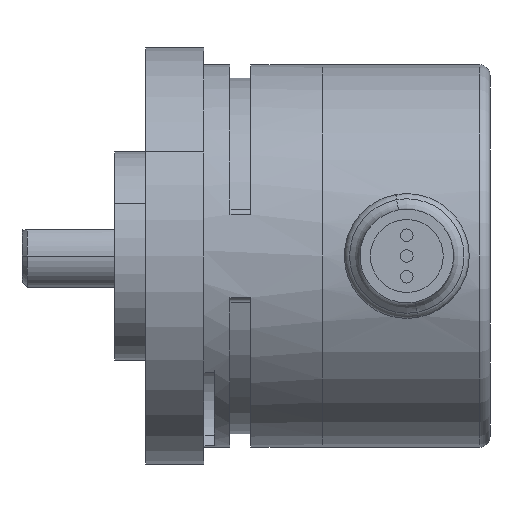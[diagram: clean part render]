
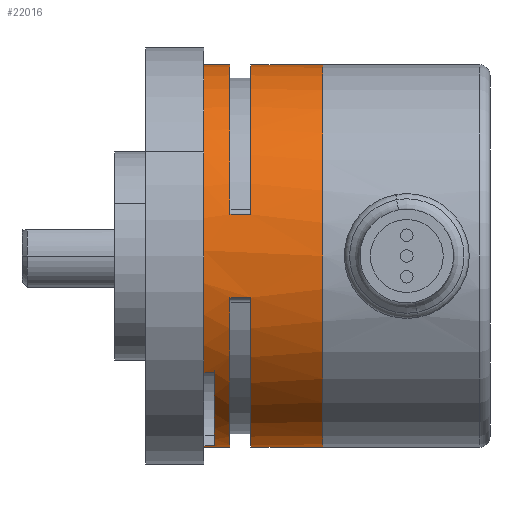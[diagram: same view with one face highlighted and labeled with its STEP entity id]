
A CAD part, front view. The second image highlights one B-rep face of the part: STEP entity #22016.
In plain terms, the highlighted cylindrical face has radius 18.4 mm (diameter 36.8 mm), a partial arc.
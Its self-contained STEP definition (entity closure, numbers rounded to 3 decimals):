
#5665 = AXIS2_PLACEMENT_3D ( 'NONE', #5717, #5716, #5715 ) ;
#5666 = CIRCLE ( 'NONE', #5665, 18.4 ) ;
#5689 = DIRECTION ( 'NONE',  ( -1., 0., 0. ) ) ;
#5690 = VECTOR ( 'NONE', #5689, 1000. ) ;
#5691 = CARTESIAN_POINT ( 'NONE',  ( -46.18, 1.858, -25.048 ) ) ;
#5697 = LINE ( 'NONE', #5691, #5690 ) ;
#5715 = DIRECTION ( 'NONE',  ( 0., 0., -1. ) ) ;
#5716 = DIRECTION ( 'NONE',  ( 1., 0., 0. ) ) ;
#5717 = CARTESIAN_POINT ( 'NONE',  ( -42.68, 4.304, -6.811 ) ) ;
#5733 = DIRECTION ( 'NONE',  ( 0., 0., 1. ) ) ;
#5734 = DIRECTION ( 'NONE',  ( -1., 0., 0. ) ) ;
#5735 = CARTESIAN_POINT ( 'NONE',  ( -46.18, 4.304, -6.811 ) ) ;
#5736 = AXIS2_PLACEMENT_3D ( 'NONE', #5735, #5734, #5733 ) ;
#5737 = CIRCLE ( 'NONE', #5736, 18.4 ) ;
#5739 = CARTESIAN_POINT ( 'NONE',  ( -42.68, -13.656, -10.811 ) ) ;
#5740 = DIRECTION ( 'NONE',  ( 0., 0., -1. ) ) ;
#5741 = DIRECTION ( 'NONE',  ( 1., 0., 0. ) ) ;
#5742 = CARTESIAN_POINT ( 'NONE',  ( -44.68, 4.304, -6.811 ) ) ;
#5743 = AXIS2_PLACEMENT_3D ( 'NONE', #5742, #5741, #5740 ) ;
#5744 = CIRCLE ( 'NONE', #5743, 18.4 ) ;
#5745 = CARTESIAN_POINT ( 'NONE',  ( -44.68, -13.656, -10.811 ) ) ;
#5746 = DIRECTION ( 'NONE',  ( -1., 0., 0. ) ) ;
#5747 = VECTOR ( 'NONE', #5746, 1000. ) ;
#5748 = CARTESIAN_POINT ( 'NONE',  ( -42.68, -13.656, -10.811 ) ) ;
#5749 = LINE ( 'NONE', #5748, #5747 ) ;
#5797 = CARTESIAN_POINT ( 'NONE',  ( -46.18, 1.858, -25.048 ) ) ;
#12674 = DIRECTION ( 'NONE',  ( -1., 0., 0. ) ) ;
#12675 = VECTOR ( 'NONE', #12674, 1000. ) ;
#12676 = CARTESIAN_POINT ( 'NONE',  ( -52.18, 4.304, 11.589 ) ) ;
#12677 = LINE ( 'NONE', #12676, #12675 ) ;
#12696 = CARTESIAN_POINT ( 'NONE',  ( -44.68, 4.304, 11.589 ) ) ;
#12697 = DIRECTION ( 'NONE',  ( -1., 0., 0. ) ) ;
#12698 = VECTOR ( 'NONE', #12697, 1000. ) ;
#12699 = CARTESIAN_POINT ( 'NONE',  ( -52.18, 4.304, 11.589 ) ) ;
#12700 = LINE ( 'NONE', #12699, #12698 ) ;
#12701 = CARTESIAN_POINT ( 'NONE',  ( -47.18, 4.304, 11.589 ) ) ;
#12772 = CARTESIAN_POINT ( 'NONE',  ( -47.18, 4.304, -25.211 ) ) ;
#12807 = CARTESIAN_POINT ( 'NONE',  ( -35.78, 4.304, 11.589 ) ) ;
#12872 = CARTESIAN_POINT ( 'NONE',  ( -42.68, 4.304, -25.211 ) ) ;
#12873 = DIRECTION ( 'NONE',  ( -1., 0., 0. ) ) ;
#12874 = VECTOR ( 'NONE', #12873, 1000. ) ;
#12875 = CARTESIAN_POINT ( 'NONE',  ( -52.18, 4.304, -25.211 ) ) ;
#12876 = LINE ( 'NONE', #12875, #12874 ) ;
#12877 = CARTESIAN_POINT ( 'NONE',  ( -35.78, 4.304, -25.211 ) ) ;
#12965 = CARTESIAN_POINT ( 'NONE',  ( -52.18, 4.304, -25.211 ) ) ;
#12966 = LINE ( 'NONE', #12965, #13022 ) ;
#12967 = CARTESIAN_POINT ( 'NONE',  ( -44.68, 4.304, -25.211 ) ) ;
#12994 = CARTESIAN_POINT ( 'NONE',  ( -42.68, 4.304, 11.589 ) ) ;
#13021 = DIRECTION ( 'NONE',  ( -1., 0., 0. ) ) ;
#13022 = VECTOR ( 'NONE', #13021, 1000. ) ;
#19520 = CARTESIAN_POINT ( 'NONE',  ( -47.18, -10.266, -18.048 ) ) ;
#19561 = CARTESIAN_POINT ( 'NONE',  ( -47.18, 1.858, -25.048 ) ) ;
#19577 = DIRECTION ( 'NONE',  ( 0., 0., 1. ) ) ;
#19578 = DIRECTION ( 'NONE',  ( -1., 0., 0. ) ) ;
#19579 = CARTESIAN_POINT ( 'NONE',  ( -47.18, 4.304, -6.811 ) ) ;
#19580 = AXIS2_PLACEMENT_3D ( 'NONE', #19579, #19578, #19577 ) ;
#19581 = CIRCLE ( 'NONE', #19580, 18.4 ) ;
#19591 = DIRECTION ( 'NONE',  ( 0., 0., 1. ) ) ;
#19592 = DIRECTION ( 'NONE',  ( -1., 0., 0. ) ) ;
#19593 = CARTESIAN_POINT ( 'NONE',  ( -47.18, 4.304, -6.811 ) ) ;
#19594 = AXIS2_PLACEMENT_3D ( 'NONE', #19593, #19592, #19591 ) ;
#19599 = CIRCLE ( 'NONE', #19594, 18.4 ) ;
#19616 = FACE_OUTER_BOUND ( 'NONE', #22017, .T. ) ;
#19628 = DIRECTION ( 'NONE',  ( 0., 0., 1. ) ) ;
#19629 = DIRECTION ( 'NONE',  ( -1., 0., 0. ) ) ;
#19630 = CARTESIAN_POINT ( 'NONE',  ( -35.78, 4.304, -6.811 ) ) ;
#19631 = AXIS2_PLACEMENT_3D ( 'NONE', #19630, #19629, #19628 ) ;
#19632 = CIRCLE ( 'NONE', #19631, 18.4 ) ;
#19636 = DIRECTION ( 'NONE',  ( 0., 0., -1. ) ) ;
#19637 = DIRECTION ( 'NONE',  ( 1., 0., 0. ) ) ;
#19638 = CARTESIAN_POINT ( 'NONE',  ( -42.68, 4.304, -6.811 ) ) ;
#19639 = AXIS2_PLACEMENT_3D ( 'NONE', #19638, #19637, #19636 ) ;
#19640 = CIRCLE ( 'NONE', #19639, 18.4 ) ;
#19653 = DIRECTION ( 'NONE',  ( 0., 0., 1. ) ) ;
#19654 = DIRECTION ( 'NONE',  ( -1., 0., 0. ) ) ;
#19655 = CARTESIAN_POINT ( 'NONE',  ( -52.18, 4.304, -6.811 ) ) ;
#19656 = AXIS2_PLACEMENT_3D ( 'NONE', #19655, #19654, #19653 ) ;
#19657 = CYLINDRICAL_SURFACE ( 'NONE', #19656, 18.4 ) ;
#19670 = DIRECTION ( 'NONE',  ( 0., 0., -1. ) ) ;
#19671 = DIRECTION ( 'NONE',  ( 1., 0., 0. ) ) ;
#19672 = CARTESIAN_POINT ( 'NONE',  ( -44.68, 4.304, -6.811 ) ) ;
#19673 = AXIS2_PLACEMENT_3D ( 'NONE', #19672, #19671, #19670 ) ;
#19674 = CIRCLE ( 'NONE', #19673, 18.4 ) ;
#19676 = DIRECTION ( 'NONE',  ( -1., 0., 0. ) ) ;
#19677 = VECTOR ( 'NONE', #19676, 1000. ) ;
#19678 = CARTESIAN_POINT ( 'NONE',  ( -42.68, -13.656, -2.811 ) ) ;
#19679 = LINE ( 'NONE', #19678, #19677 ) ;
#19680 = CARTESIAN_POINT ( 'NONE',  ( -46.18, -10.266, -18.048 ) ) ;
#19681 = CARTESIAN_POINT ( 'NONE',  ( -44.68, -13.656, -2.811 ) ) ;
#19682 = DIRECTION ( 'NONE',  ( -1., 0., 0. ) ) ;
#19683 = VECTOR ( 'NONE', #19682, 1000. ) ;
#19684 = CARTESIAN_POINT ( 'NONE',  ( -46.18, -10.266, -18.048 ) ) ;
#19685 = LINE ( 'NONE', #19684, #19683 ) ;
#19686 = CARTESIAN_POINT ( 'NONE',  ( -42.68, -13.656, -2.811 ) ) ;
#21980 = VERTEX_POINT ( 'NONE', #19520 ) ;
#21986 = VERTEX_POINT ( 'NONE', #19561 ) ;
#21988 = EDGE_CURVE ( 'NONE', #26019, #21986, #19599, .T. ) ;
#22002 = EDGE_CURVE ( 'NONE', #21980, #25979, #19581, .T. ) ;
#22016 = ADVANCED_FACE ( 'NONE', ( #19616 ), #19657, .T. ) ;
#22017 = EDGE_LOOP ( 'NONE', ( #22024, #22035, #22031, #22027, #22040, #22041, #22048, #22045, #22037, #24052, #24104, #24098, #24099, #24059, #24061, #24089 ) ) ;
#22023 = EDGE_CURVE ( 'NONE', #26089, #22036, #19640, .T. ) ;
#22024 = ORIENTED_EDGE ( 'NONE', *, *, #26041, .F. ) ;
#22027 = ORIENTED_EDGE ( 'NONE', *, *, #22023, .T. ) ;
#22028 = EDGE_CURVE ( 'NONE', #26039, #26031, #19632, .T. ) ;
#22031 = ORIENTED_EDGE ( 'NONE', *, *, #25993, .T. ) ;
#22035 = ORIENTED_EDGE ( 'NONE', *, *, #22028, .T. ) ;
#22036 = VERTEX_POINT ( 'NONE', #19686 ) ;
#22037 = ORIENTED_EDGE ( 'NONE', *, *, #22038, .F. ) ;
#22038 = EDGE_CURVE ( 'NONE', #22042, #21980, #19685, .T. ) ;
#22039 = VERTEX_POINT ( 'NONE', #19681 ) ;
#22040 = ORIENTED_EDGE ( 'NONE', *, *, #22043, .T. ) ;
#22041 = ORIENTED_EDGE ( 'NONE', *, *, #22044, .F. ) ;
#22042 = VERTEX_POINT ( 'NONE', #19680 ) ;
#22043 = EDGE_CURVE ( 'NONE', #22036, #22039, #19679, .T. ) ;
#22044 = EDGE_CURVE ( 'NONE', #25982, #22039, #19674, .T. ) ;
#22045 = ORIENTED_EDGE ( 'NONE', *, *, #22002, .F. ) ;
#22048 = ORIENTED_EDGE ( 'NONE', *, *, #25981, .T. ) ;
#24052 = ORIENTED_EDGE ( 'NONE', *, *, #24063, .F. ) ;
#24054 = EDGE_CURVE ( 'NONE', #24062, #26042, #5666, .T. ) ;
#24057 = EDGE_CURVE ( 'NONE', #24105, #21986, #5697, .T. ) ;
#24058 = VERTEX_POINT ( 'NONE', #5745 ) ;
#24059 = ORIENTED_EDGE ( 'NONE', *, *, #24060, .F. ) ;
#24060 = EDGE_CURVE ( 'NONE', #24058, #26102, #5744, .T. ) ;
#24061 = ORIENTED_EDGE ( 'NONE', *, *, #24088, .F. ) ;
#24062 = VERTEX_POINT ( 'NONE', #5739 ) ;
#24063 = EDGE_CURVE ( 'NONE', #24105, #22042, #5737, .T. ) ;
#24088 = EDGE_CURVE ( 'NONE', #24062, #24058, #5749, .T. ) ;
#24089 = ORIENTED_EDGE ( 'NONE', *, *, #24054, .T. ) ;
#24098 = ORIENTED_EDGE ( 'NONE', *, *, #21988, .F. ) ;
#24099 = ORIENTED_EDGE ( 'NONE', *, *, #26104, .F. ) ;
#24104 = ORIENTED_EDGE ( 'NONE', *, *, #24057, .T. ) ;
#24105 = VERTEX_POINT ( 'NONE', #5797 ) ;
#25979 = VERTEX_POINT ( 'NONE', #12701 ) ;
#25981 = EDGE_CURVE ( 'NONE', #25982, #25979, #12700, .T. ) ;
#25982 = VERTEX_POINT ( 'NONE', #12696 ) ;
#25993 = EDGE_CURVE ( 'NONE', #26031, #26089, #12677, .T. ) ;
#26019 = VERTEX_POINT ( 'NONE', #12772 ) ;
#26031 = VERTEX_POINT ( 'NONE', #12807 ) ;
#26039 = VERTEX_POINT ( 'NONE', #12877 ) ;
#26041 = EDGE_CURVE ( 'NONE', #26039, #26042, #12876, .T. ) ;
#26042 = VERTEX_POINT ( 'NONE', #12872 ) ;
#26089 = VERTEX_POINT ( 'NONE', #12994 ) ;
#26102 = VERTEX_POINT ( 'NONE', #12967 ) ;
#26104 = EDGE_CURVE ( 'NONE', #26102, #26019, #12966, .T. ) ;
